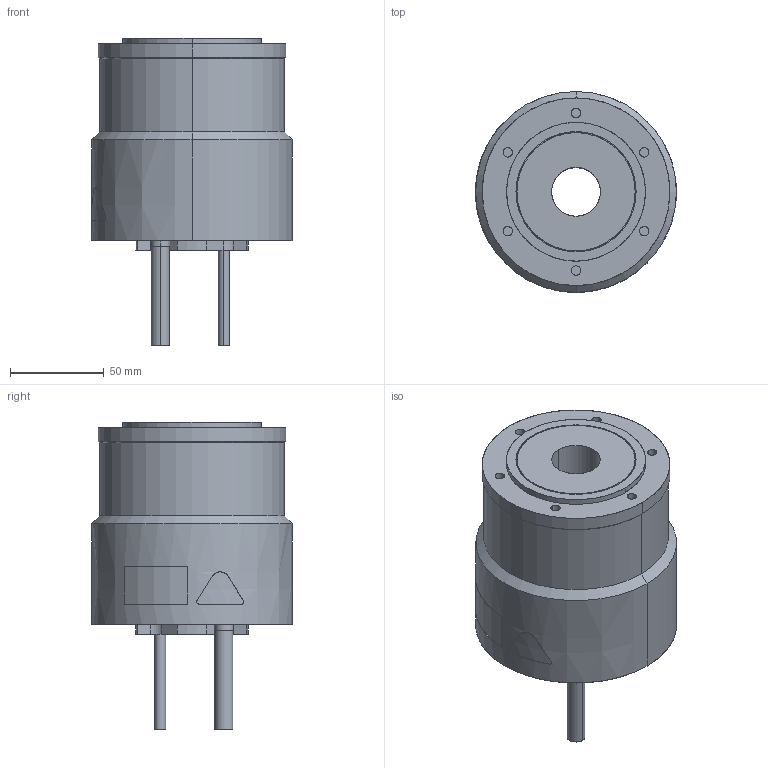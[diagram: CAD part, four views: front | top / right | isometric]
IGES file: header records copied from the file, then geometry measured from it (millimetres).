
Start section: SolidWorks IGES file using analytic representation for surfaces
Bounding box: 107.04 x 107 x 164 mm (x, y, z)
Surface area: 67065.5 mm2 (no closed solid volume)
Topology: 0 solids, 0 shells, 123 faces, 2614 edges, 2614 vertices
Faces by surface type: revolution 75, bspline 48
